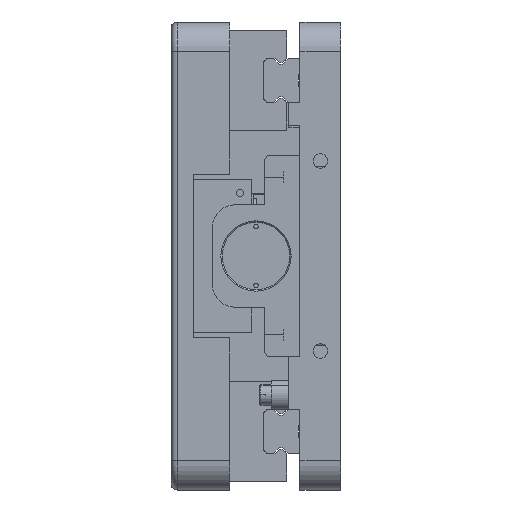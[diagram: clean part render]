
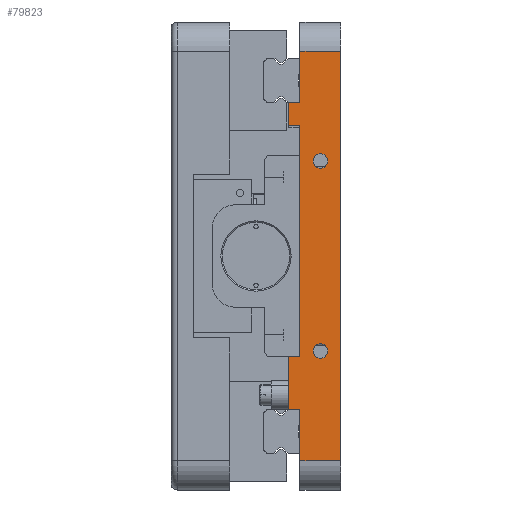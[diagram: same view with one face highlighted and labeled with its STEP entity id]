
A CAD part, left-side view. The second image highlights one B-rep face of the part: STEP entity #79823.
In plain terms, the highlighted planar face has unit normal (-1, 0, 0).
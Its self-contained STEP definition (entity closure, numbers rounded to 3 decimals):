
#325 = VECTOR ( 'NONE', #32527, 1000. ) ;
#1074 = EDGE_CURVE ( 'NONE', #38838, #93311, #68420, .T. ) ;
#1295 = DIRECTION ( 'NONE',  ( 0., 0., 1. ) ) ;
#1560 = CARTESIAN_POINT ( 'NONE',  ( -186.5, -374.012, -52.5 ) ) ;
#2024 = CARTESIAN_POINT ( 'NONE',  ( -186.5, 14., 70. ) ) ;
#2698 = LINE ( 'NONE', #62065, #325 ) ;
#2770 = VECTOR ( 'NONE', #3195, 1000. ) ;
#3195 = DIRECTION ( 'NONE',  ( 0., 1., 0. ) ) ;
#3755 = CARTESIAN_POINT ( 'NONE',  ( -186.5, 17.8, 44.5 ) ) ;
#4258 = EDGE_LOOP ( 'NONE', ( #90960, #7176, #94976, #75028, #79837, #94051, #9355, #40943, #49747, #60167, #54490, #38609 ) ) ;
#5680 = ORIENTED_EDGE ( 'NONE', *, *, #21270, .F. ) ;
#7176 = ORIENTED_EDGE ( 'NONE', *, *, #71784, .T. ) ;
#8063 = CARTESIAN_POINT ( 'NONE',  ( -186.5, 7., 32.5 ) ) ;
#8510 = CARTESIAN_POINT ( 'NONE',  ( -186.5, 14., -34.5 ) ) ;
#9355 = ORIENTED_EDGE ( 'NONE', *, *, #49546, .T. ) ;
#9590 = CARTESIAN_POINT ( 'NONE',  ( -186.5, 7., -30. ) ) ;
#9908 = DIRECTION ( 'NONE',  ( -1., 0., 0. ) ) ;
#10198 = DIRECTION ( 'NONE',  ( 0., 0., -1. ) ) ;
#10541 = AXIS2_PLACEMENT_3D ( 'NONE', #65448, #13228, #36163 ) ;
#10888 = EDGE_LOOP ( 'NONE', ( #25626, #5680 ) ) ;
#12143 = EDGE_CURVE ( 'NONE', #40523, #43537, #22776, .T. ) ;
#13228 = DIRECTION ( 'NONE',  ( -1., 0., 0. ) ) ;
#13326 = EDGE_CURVE ( 'NONE', #80656, #67272, #2698, .T. ) ;
#16287 = CARTESIAN_POINT ( 'NONE',  ( -186.5, 0., -80. ) ) ;
#17292 = EDGE_CURVE ( 'NONE', #94499, #38838, #70046, .T. ) ;
#17439 = EDGE_CURVE ( 'NONE', #56512, #80656, #29980, .T. ) ;
#17608 = DIRECTION ( 'NONE',  ( 0., 0., 1. ) ) ;
#18358 = EDGE_CURVE ( 'NONE', #58708, #28175, #48055, .T. ) ;
#21270 = EDGE_CURVE ( 'NONE', #28175, #58708, #95709, .T. ) ;
#21521 = CARTESIAN_POINT ( 'NONE',  ( -186.5, 17.8, 70. ) ) ;
#21775 = VECTOR ( 'NONE', #49820, 1000. ) ;
#22776 = LINE ( 'NONE', #34028, #2770 ) ;
#23271 = VECTOR ( 'NONE', #36103, 1000. ) ;
#23846 = EDGE_CURVE ( 'NONE', #43537, #67272, #89396, .T. ) ;
#24589 = EDGE_CURVE ( 'NONE', #97448, #36964, #43256, .T. ) ;
#25557 = DIRECTION ( 'NONE',  ( 0., 1., 0. ) ) ;
#25575 = VERTEX_POINT ( 'NONE', #8510 ) ;
#25626 = ORIENTED_EDGE ( 'NONE', *, *, #18358, .F. ) ;
#26478 = DIRECTION ( 'NONE',  ( 0., 0., -1. ) ) ;
#28175 = VERTEX_POINT ( 'NONE', #57575 ) ;
#28266 = AXIS2_PLACEMENT_3D ( 'NONE', #8063, #49273, #48850 ) ;
#29763 = DIRECTION ( 'NONE',  ( 0., 1., 0. ) ) ;
#29980 = LINE ( 'NONE', #42614, #21775 ) ;
#30080 = VECTOR ( 'NONE', #25557, 1000. ) ;
#30448 = CIRCLE ( 'NONE', #28266, 2.5 ) ;
#30488 = CARTESIAN_POINT ( 'NONE',  ( -186.5, 0., 70. ) ) ;
#30810 = EDGE_CURVE ( 'NONE', #25575, #93311, #45257, .T. ) ;
#31024 = CARTESIAN_POINT ( 'NONE',  ( -186.5, 14., -70. ) ) ;
#31090 = DIRECTION ( 'NONE',  ( 0., 0., -1. ) ) ;
#31916 = CARTESIAN_POINT ( 'NONE',  ( -186.5, 17.8, -80. ) ) ;
#32527 = DIRECTION ( 'NONE',  ( 0., 1., 0. ) ) ;
#32537 = PLANE ( 'NONE',  #55080 ) ;
#32922 = VECTOR ( 'NONE', #17608, 1000. ) ;
#33654 = CARTESIAN_POINT ( 'NONE',  ( -186.5, 17.8, -80. ) ) ;
#34028 = CARTESIAN_POINT ( 'NONE',  ( -186.5, -110.209, 44.5 ) ) ;
#36103 = DIRECTION ( 'NONE',  ( 0., -1., 0. ) ) ;
#36163 = DIRECTION ( 'NONE',  ( 0., 0., 1. ) ) ;
#36867 = VECTOR ( 'NONE', #26478, 1000. ) ;
#36964 = VERTEX_POINT ( 'NONE', #93929 ) ;
#38609 = ORIENTED_EDGE ( 'NONE', *, *, #24589, .T. ) ;
#38838 = VERTEX_POINT ( 'NONE', #57894 ) ;
#40472 = LINE ( 'NONE', #63886, #36867 ) ;
#40482 = LINE ( 'NONE', #21521, #52226 ) ;
#40523 = VERTEX_POINT ( 'NONE', #68946 ) ;
#40943 = ORIENTED_EDGE ( 'NONE', *, *, #30810, .T. ) ;
#42614 = CARTESIAN_POINT ( 'NONE',  ( -186.5, 14., 80. ) ) ;
#43256 = LINE ( 'NONE', #59069, #23271 ) ;
#43537 = VERTEX_POINT ( 'NONE', #3755 ) ;
#45257 = LINE ( 'NONE', #96762, #65256 ) ;
#45953 = DIRECTION ( 'NONE',  ( -1., 0., 0. ) ) ;
#48055 = CIRCLE ( 'NONE', #66257, 2.5 ) ;
#48850 = DIRECTION ( 'NONE',  ( 0., 0., 1. ) ) ;
#49273 = DIRECTION ( 'NONE',  ( -1., 0., 0. ) ) ;
#49546 = EDGE_CURVE ( 'NONE', #40523, #25575, #40472, .T. ) ;
#49747 = ORIENTED_EDGE ( 'NONE', *, *, #1074, .F. ) ;
#49820 = DIRECTION ( 'NONE',  ( 0., 0., -1. ) ) ;
#52195 = CARTESIAN_POINT ( 'NONE',  ( -186.5, 17.8, 52.5 ) ) ;
#52226 = VECTOR ( 'NONE', #82323, 1000. ) ;
#54490 = ORIENTED_EDGE ( 'NONE', *, *, #58114, .T. ) ;
#55080 = AXIS2_PLACEMENT_3D ( 'NONE', #91985, #85120, #10198 ) ;
#55287 = EDGE_CURVE ( 'NONE', #36964, #96094, #76912, .T. ) ;
#56512 = VERTEX_POINT ( 'NONE', #2024 ) ;
#57481 = VERTEX_POINT ( 'NONE', #83827 ) ;
#57575 = CARTESIAN_POINT ( 'NONE',  ( -186.5, 7., -35. ) ) ;
#57894 = CARTESIAN_POINT ( 'NONE',  ( -186.5, 17.8, -52.5 ) ) ;
#58114 = EDGE_CURVE ( 'NONE', #94499, #97448, #96984, .T. ) ;
#58708 = VERTEX_POINT ( 'NONE', #9590 ) ;
#59069 = CARTESIAN_POINT ( 'NONE',  ( -186.5, 17.8, -70. ) ) ;
#60167 = ORIENTED_EDGE ( 'NONE', *, *, #17292, .F. ) ;
#61780 = DIRECTION ( 'NONE',  ( 0., 0., 1. ) ) ;
#62065 = CARTESIAN_POINT ( 'NONE',  ( -186.5, -374.012, 52.5 ) ) ;
#63865 = EDGE_LOOP ( 'NONE', ( #94804, #85248 ) ) ;
#63886 = CARTESIAN_POINT ( 'NONE',  ( -186.5, 14., 44.5 ) ) ;
#65256 = VECTOR ( 'NONE', #29763, 1000. ) ;
#65448 = CARTESIAN_POINT ( 'NONE',  ( -186.5, 7., -32.5 ) ) ;
#65947 = EDGE_CURVE ( 'NONE', #57481, #77769, #93541, .T. ) ;
#66257 = AXIS2_PLACEMENT_3D ( 'NONE', #78199, #9908, #70352 ) ;
#67272 = VERTEX_POINT ( 'NONE', #52195 ) ;
#67331 = AXIS2_PLACEMENT_3D ( 'NONE', #75535, #45953, #1295 ) ;
#68089 = CARTESIAN_POINT ( 'NONE',  ( -186.5, 14., 52.5 ) ) ;
#68420 = LINE ( 'NONE', #31916, #86130 ) ;
#68793 = DIRECTION ( 'NONE',  ( 0., 0., 1. ) ) ;
#68946 = CARTESIAN_POINT ( 'NONE',  ( -186.5, 14., 44.5 ) ) ;
#69354 = FACE_BOUND ( 'NONE', #63865, .T. ) ;
#70046 = LINE ( 'NONE', #1560, #30080 ) ;
#70352 = DIRECTION ( 'NONE',  ( 0., 0., 1. ) ) ;
#71784 = EDGE_CURVE ( 'NONE', #96094, #56512, #40482, .T. ) ;
#75028 = ORIENTED_EDGE ( 'NONE', *, *, #13326, .T. ) ;
#75535 = CARTESIAN_POINT ( 'NONE',  ( -186.5, 7., 32.5 ) ) ;
#76912 = LINE ( 'NONE', #16287, #94601 ) ;
#77006 = VECTOR ( 'NONE', #31090, 1000. ) ;
#77769 = VERTEX_POINT ( 'NONE', #87919 ) ;
#78199 = CARTESIAN_POINT ( 'NONE',  ( -186.5, 7., -32.5 ) ) ;
#79507 = CARTESIAN_POINT ( 'NONE',  ( -186.5, 17.8, -34.5 ) ) ;
#79823 = ADVANCED_FACE ( 'NONE', ( #89354, #69354, #87044 ), #32537, .F. ) ;
#79837 = ORIENTED_EDGE ( 'NONE', *, *, #23846, .F. ) ;
#80656 = VERTEX_POINT ( 'NONE', #68089 ) ;
#82073 = EDGE_CURVE ( 'NONE', #77769, #57481, #30448, .T. ) ;
#82323 = DIRECTION ( 'NONE',  ( 0., 1., 0. ) ) ;
#83827 = CARTESIAN_POINT ( 'NONE',  ( -186.5, 7., 30. ) ) ;
#85120 = DIRECTION ( 'NONE',  ( 1., 0., 0. ) ) ;
#85248 = ORIENTED_EDGE ( 'NONE', *, *, #65947, .F. ) ;
#86130 = VECTOR ( 'NONE', #61780, 1000. ) ;
#86820 = CARTESIAN_POINT ( 'NONE',  ( -186.5, 14., -52.5 ) ) ;
#87044 = FACE_OUTER_BOUND ( 'NONE', #4258, .T. ) ;
#87919 = CARTESIAN_POINT ( 'NONE',  ( -186.5, 7., 35. ) ) ;
#89354 = FACE_BOUND ( 'NONE', #10888, .T. ) ;
#89396 = LINE ( 'NONE', #33654, #32922 ) ;
#90960 = ORIENTED_EDGE ( 'NONE', *, *, #55287, .T. ) ;
#91836 = CARTESIAN_POINT ( 'NONE',  ( -186.5, 14., -80. ) ) ;
#91985 = CARTESIAN_POINT ( 'NONE',  ( -186.5, 17.8, -80. ) ) ;
#93311 = VERTEX_POINT ( 'NONE', #79507 ) ;
#93541 = CIRCLE ( 'NONE', #67331, 2.5 ) ;
#93929 = CARTESIAN_POINT ( 'NONE',  ( -186.5, 0., -70. ) ) ;
#94051 = ORIENTED_EDGE ( 'NONE', *, *, #12143, .F. ) ;
#94499 = VERTEX_POINT ( 'NONE', #86820 ) ;
#94601 = VECTOR ( 'NONE', #68793, 1000. ) ;
#94804 = ORIENTED_EDGE ( 'NONE', *, *, #82073, .F. ) ;
#94976 = ORIENTED_EDGE ( 'NONE', *, *, #17439, .T. ) ;
#95709 = CIRCLE ( 'NONE', #10541, 2.5 ) ;
#96094 = VERTEX_POINT ( 'NONE', #30488 ) ;
#96762 = CARTESIAN_POINT ( 'NONE',  ( -186.5, -110.209, -34.5 ) ) ;
#96984 = LINE ( 'NONE', #91836, #77006 ) ;
#97448 = VERTEX_POINT ( 'NONE', #31024 ) ;
